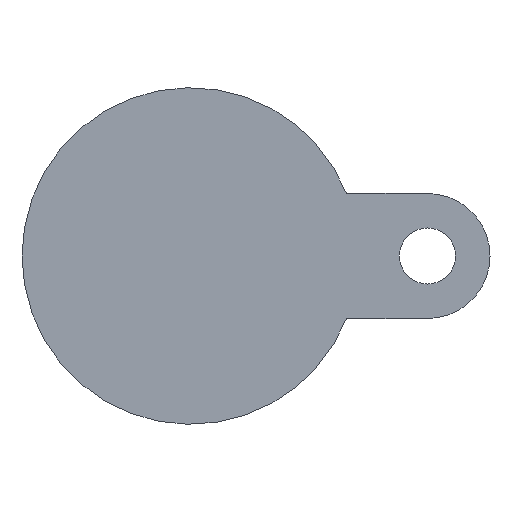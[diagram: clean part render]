
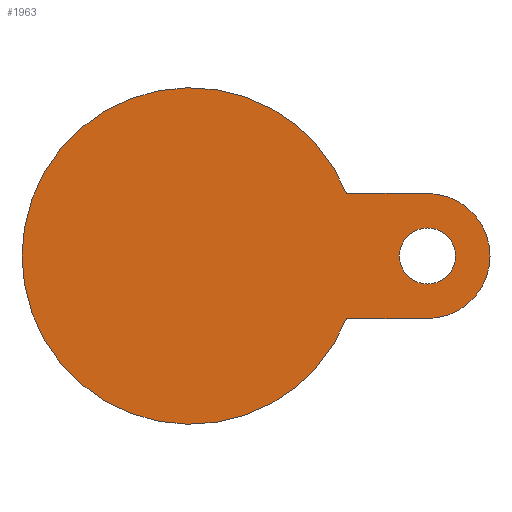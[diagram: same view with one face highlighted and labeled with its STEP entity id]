
A CAD part, front view. The second image highlights one B-rep face of the part: STEP entity #1963.
In plain terms, the highlighted planar face has unit normal (0, -1, 0).
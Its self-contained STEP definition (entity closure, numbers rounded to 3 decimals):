
#276 = ORIENTED_EDGE ( 'NONE', *, *, #4196, .F. ) ;
#286 = AXIS2_PLACEMENT_3D ( 'NONE', #2431, #2356, #4497 ) ;
#306 = DIRECTION ( 'NONE',  ( 1., 0., 0. ) ) ;
#317 = ORIENTED_EDGE ( 'NONE', *, *, #3992, .T. ) ;
#382 = AXIS2_PLACEMENT_3D ( 'NONE', #2220, #3920, #4335 ) ;
#404 = VERTEX_POINT ( 'NONE', #2802 ) ;
#474 = LINE ( 'NONE', #2694, #3656 ) ;
#503 = CARTESIAN_POINT ( 'NONE',  ( 0., -25., 0. ) ) ;
#644 = AXIS2_PLACEMENT_3D ( 'NONE', #503, #3020, #859 ) ;
#777 = CARTESIAN_POINT ( 'NONE',  ( 93.5, -25., 0. ) ) ;
#859 = DIRECTION ( 'NONE',  ( -1., 0., 0. ) ) ;
#1003 = FACE_OUTER_BOUND ( 'NONE', #4207, .T. ) ;
#1047 = ORIENTED_EDGE ( 'NONE', *, *, #4416, .F. ) ;
#1078 = VERTEX_POINT ( 'NONE', #777 ) ;
#1086 = VECTOR ( 'NONE', #306, 1000. ) ;
#1322 = ORIENTED_EDGE ( 'NONE', *, *, #3029, .F. ) ;
#1351 = CARTESIAN_POINT ( 'NONE',  ( 74., -25., 0. ) ) ;
#1410 = ORIENTED_EDGE ( 'NONE', *, *, #4256, .T. ) ;
#1447 = AXIS2_PLACEMENT_3D ( 'NONE', #4200, #4230, #5467 ) ;
#1508 = ORIENTED_EDGE ( 'NONE', *, *, #3788, .F. ) ;
#1572 = CARTESIAN_POINT ( 'NONE',  ( 48.744, -25., 19.5 ) ) ;
#1579 = VERTEX_POINT ( 'NONE', #1572 ) ;
#1731 = DIRECTION ( 'NONE',  ( 0., -1., 0. ) ) ;
#1963 = ADVANCED_FACE ( 'NONE', ( #1003, #3535 ), #2697, .T. ) ;
#1979 = LINE ( 'NONE', #4992, #1086 ) ;
#2025 = EDGE_LOOP ( 'NONE', ( #1508, #1047 ) ) ;
#2220 = CARTESIAN_POINT ( 'NONE',  ( 74., -25., 0. ) ) ;
#2239 = DIRECTION ( 'NONE',  ( 1., 0., 0. ) ) ;
#2328 = CIRCLE ( 'NONE', #4633, 52.5 ) ;
#2356 = DIRECTION ( 'NONE',  ( 0., -1., 0. ) ) ;
#2431 = CARTESIAN_POINT ( 'NONE',  ( 74., -25., 0. ) ) ;
#2504 = CIRCLE ( 'NONE', #3388, 8.75 ) ;
#2590 = CIRCLE ( 'NONE', #1447, 19.5 ) ;
#2654 = ORIENTED_EDGE ( 'NONE', *, *, #4737, .T. ) ;
#2694 = CARTESIAN_POINT ( 'NONE',  ( 42.597, -25., 19.5 ) ) ;
#2697 = PLANE ( 'NONE',  #4807 ) ;
#2793 = CARTESIAN_POINT ( 'NONE',  ( 0., -25., 0. ) ) ;
#2802 = CARTESIAN_POINT ( 'NONE',  ( 74., -25., 19.5 ) ) ;
#3020 = DIRECTION ( 'NONE',  ( 0., 1., 0. ) ) ;
#3029 = EDGE_CURVE ( 'NONE', #4381, #4509, #5330, .T. ) ;
#3388 = AXIS2_PLACEMENT_3D ( 'NONE', #1351, #5205, #2239 ) ;
#3445 = DIRECTION ( 'NONE',  ( 1., 0., 0. ) ) ;
#3455 = ORIENTED_EDGE ( 'NONE', *, *, #4908, .T. ) ;
#3535 = FACE_BOUND ( 'NONE', #2025, .T. ) ;
#3656 = VECTOR ( 'NONE', #4779, 1000. ) ;
#3696 = CARTESIAN_POINT ( 'NONE',  ( -52.5, -25., 0. ) ) ;
#3773 = CARTESIAN_POINT ( 'NONE',  ( 48.744, -25., -19.5 ) ) ;
#3788 = EDGE_CURVE ( 'NONE', #5100, #5412, #2504, .T. ) ;
#3920 = DIRECTION ( 'NONE',  ( 0., -1., 0. ) ) ;
#3992 = EDGE_CURVE ( 'NONE', #4648, #1078, #2590, .T. ) ;
#4099 = CIRCLE ( 'NONE', #286, 19.5 ) ;
#4186 = CIRCLE ( 'NONE', #382, 8.75 ) ;
#4196 = EDGE_CURVE ( 'NONE', #4509, #1579, #2328, .T. ) ;
#4200 = CARTESIAN_POINT ( 'NONE',  ( 74., -25., 0. ) ) ;
#4207 = EDGE_LOOP ( 'NONE', ( #3455, #276, #1322, #2654, #317, #1410 ) ) ;
#4230 = DIRECTION ( 'NONE',  ( 0., -1., 0. ) ) ;
#4256 = EDGE_CURVE ( 'NONE', #1078, #404, #4099, .T. ) ;
#4335 = DIRECTION ( 'NONE',  ( 1., 0., 0. ) ) ;
#4381 = VERTEX_POINT ( 'NONE', #3773 ) ;
#4416 = EDGE_CURVE ( 'NONE', #5412, #5100, #4186, .T. ) ;
#4497 = DIRECTION ( 'NONE',  ( 1., 0., 0. ) ) ;
#4509 = VERTEX_POINT ( 'NONE', #3696 ) ;
#4594 = CARTESIAN_POINT ( 'NONE',  ( 65.25, -25., 0. ) ) ;
#4633 = AXIS2_PLACEMENT_3D ( 'NONE', #2793, #4935, #4957 ) ;
#4648 = VERTEX_POINT ( 'NONE', #4963 ) ;
#4737 = EDGE_CURVE ( 'NONE', #4381, #4648, #1979, .T. ) ;
#4779 = DIRECTION ( 'NONE',  ( -1., 0., 0. ) ) ;
#4807 = AXIS2_PLACEMENT_3D ( 'NONE', #5112, #1731, #3445 ) ;
#4908 = EDGE_CURVE ( 'NONE', #404, #1579, #474, .T. ) ;
#4935 = DIRECTION ( 'NONE',  ( 0., 1., 0. ) ) ;
#4957 = DIRECTION ( 'NONE',  ( -1., 0., 0. ) ) ;
#4963 = CARTESIAN_POINT ( 'NONE',  ( 74., -25., -19.5 ) ) ;
#4992 = CARTESIAN_POINT ( 'NONE',  ( 74., -25., -19.5 ) ) ;
#5100 = VERTEX_POINT ( 'NONE', #5452 ) ;
#5112 = CARTESIAN_POINT ( 'NONE',  ( 0., -25., 0. ) ) ;
#5205 = DIRECTION ( 'NONE',  ( 0., -1., 0. ) ) ;
#5330 = CIRCLE ( 'NONE', #644, 52.5 ) ;
#5412 = VERTEX_POINT ( 'NONE', #4594 ) ;
#5452 = CARTESIAN_POINT ( 'NONE',  ( 82.75, -25., 0. ) ) ;
#5467 = DIRECTION ( 'NONE',  ( 1., 0., 0. ) ) ;
